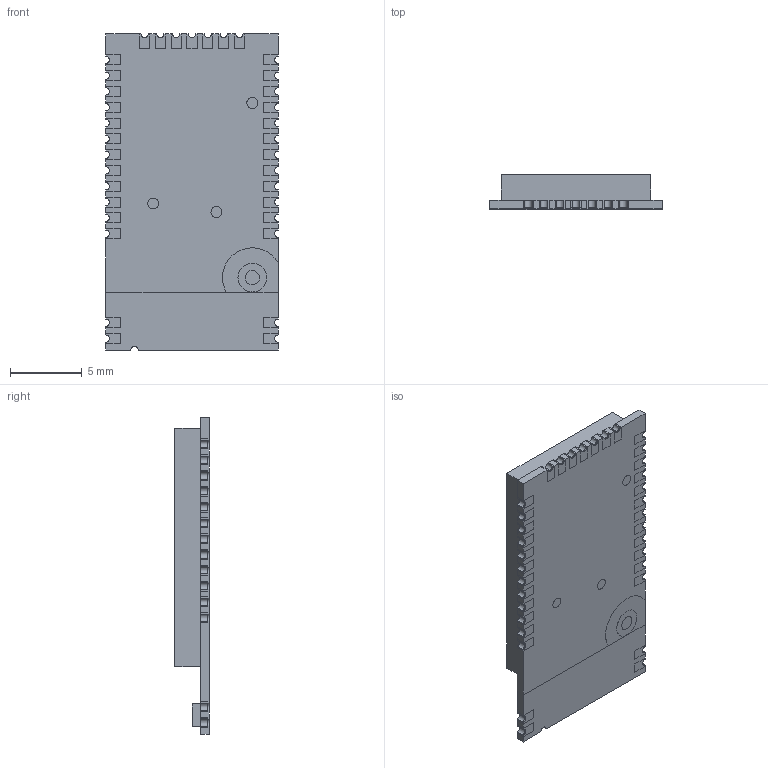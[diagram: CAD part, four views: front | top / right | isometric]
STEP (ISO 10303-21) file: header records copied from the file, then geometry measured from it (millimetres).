
FILE_DESCRIPTION (( 'STEP AP214' ), '1' );
FILE_NAME ('Part1.STEP', '2022-02-09T08:22:52', ( '' ), ( '' ), 'SwSTEP 2.0', 'SolidWorks 2013', '' );
FILE_SCHEMA (( 'AUTOMOTIVE_DESIGN' ));
Length unit declared in the file: millimetre
Products named in the file (1): Part1
Bounding box: 12 x 2.4 x 22 mm (x, y, z)
Volume: 470.2 mm3; surface area: 1145.4 mm2
Topology: 78 solids, 78 shells, 771 faces, 1760 edges, 1150 vertices
Faces by surface type: plane 600, cylinder 171
Entity records: 22242 total; most frequent: CARTESIAN_POINT 3682, DIRECTION 3646, ORIENTED_EDGE 3520, EDGE_CURVE 1760, LINE 1418, VECTOR 1418, VERTEX_POINT 1150, AXIS2_PLACEMENT_3D 1114
